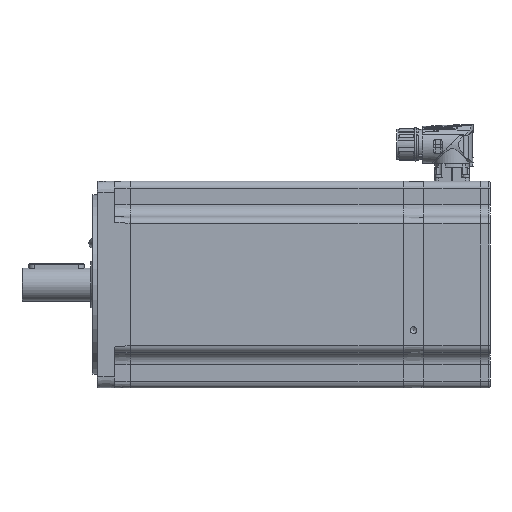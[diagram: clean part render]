
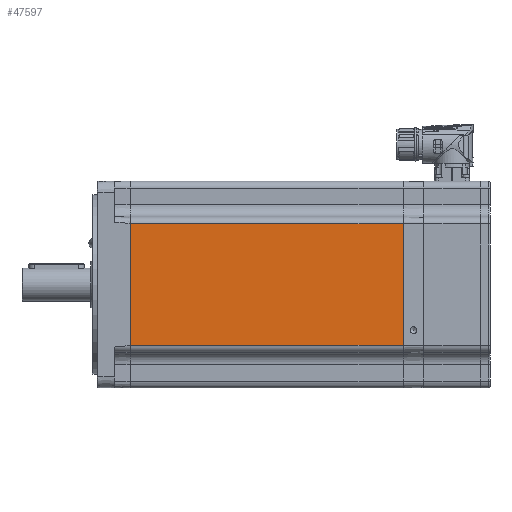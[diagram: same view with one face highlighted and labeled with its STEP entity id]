
A CAD part, left-side view. The second image highlights one B-rep face of the part: STEP entity #47597.
In plain terms, the highlighted planar face has unit normal (-1, 0, 0) as drawn and (0, -1, 0) by its records, which use the part's own axes.
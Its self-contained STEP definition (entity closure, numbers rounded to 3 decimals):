
#2830=LINE('',#83131,#4792);
#2851=LINE('',#83229,#4813);
#2854=LINE('',#83262,#4816);
#2855=LINE('',#83263,#4817);
#4792=VECTOR('',#59238,1000.);
#4813=VECTOR('',#59315,1000.);
#4816=VECTOR('',#59354,1000.);
#4817=VECTOR('',#59355,1000.);
#15818=ORIENTED_EDGE('',*,*,#20540,.F.);
#15819=ORIENTED_EDGE('',*,*,#20601,.T.);
#15820=ORIENTED_EDGE('',*,*,#20588,.T.);
#15821=ORIENTED_EDGE('',*,*,#20602,.T.);
#20540=EDGE_CURVE('',#23787,#23788,#2830,.T.);
#20588=EDGE_CURVE('',#23836,#23835,#2851,.T.);
#20601=EDGE_CURVE('',#23787,#23836,#2854,.T.);
#20602=EDGE_CURVE('',#23835,#23788,#2855,.F.);
#23787=VERTEX_POINT('',#83132);
#23788=VERTEX_POINT('',#83133);
#23835=VERTEX_POINT('',#83228);
#23836=VERTEX_POINT('',#83230);
#28030=EDGE_LOOP('',(#15818,#15819,#15820,#15821));
#30786=FACE_BOUND('',#28030,.T.);
#31697=PLANE('',#50918);
#47597=ADVANCED_FACE('',(#30786),#31697,.T.);
#50918=AXIS2_PLACEMENT_3D('',#83261,#59352,#59353);
#59238=DIRECTION('',(0.,0.,-1.));
#59315=DIRECTION('',(0.,0.,-1.));
#59352=DIRECTION('',(0.,-1.,0.));
#59353=DIRECTION('',(0.,0.,-1.));
#59354=DIRECTION('',(-1.,0.,0.));
#59355=DIRECTION('',(-1.,0.,0.));
#83131=CARTESIAN_POINT('',(-1.,-75.,75.));
#83132=CARTESIAN_POINT('',(-1.,-75.,44.));
#83133=CARTESIAN_POINT('',(-1.,-75.,-44.));
#83228=CARTESIAN_POINT('',(-199.,-75.,-44.));
#83229=CARTESIAN_POINT('',(-199.,-75.,75.));
#83230=CARTESIAN_POINT('',(-199.,-75.,44.));
#83261=CARTESIAN_POINT('',(-300.,-75.,75.));
#83262=CARTESIAN_POINT('',(-300.,-75.,44.));
#83263=CARTESIAN_POINT('',(0.,-75.,-44.));
